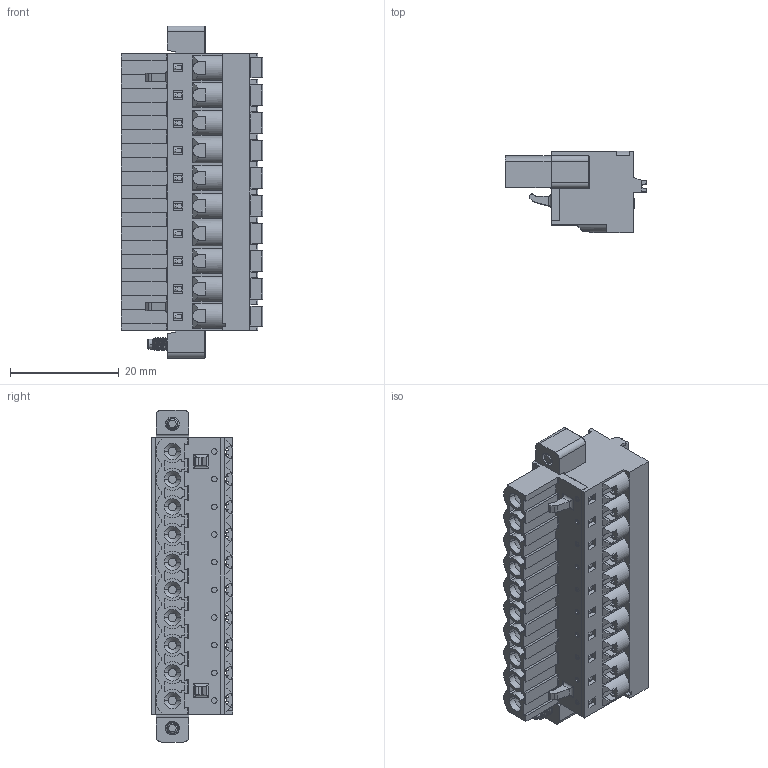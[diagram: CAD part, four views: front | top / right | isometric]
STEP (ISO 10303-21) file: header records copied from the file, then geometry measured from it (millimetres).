
FILE_DESCRIPTION((''),'2;1');
FILE_NAME('CONN_10_POS_SPRING_TERM','2016-02-29T',('dkendric'),(''),'PRO/ENGINEER BY PARAMETRIC TECHNOLOGY CORPORATION, 2015280','PRO/ENGINEER BY PARAMETRIC TECHNOLOGY CORPORATION, 2015280','');
FILE_SCHEMA(('CONFIG_CONTROL_DESIGN'));
Products named in the file (1): CONN_10_POS_SPRING_TERM
Bounding box: 25.94 x 14.9 x 60.96 mm (x, y, z)
Volume: 12478 mm3; surface area: 7858.1 mm2
Topology: 1 solids, 11 shells, 1662 faces, 4592 edges, 3069 vertices
Faces by surface type: plane 901, cylinder 506, extrusion 179, cone 46, torus 24, bspline 6
Entity records: 59442 total; most frequent: CARTESIAN_POINT 17242, ORIENTED_EDGE 9184, DIRECTION 8096, EDGE_CURVE 4592, VERTEX_POINT 3069, VECTOR 2852, LINE 2673, AXIS2_PLACEMENT_3D 2622
